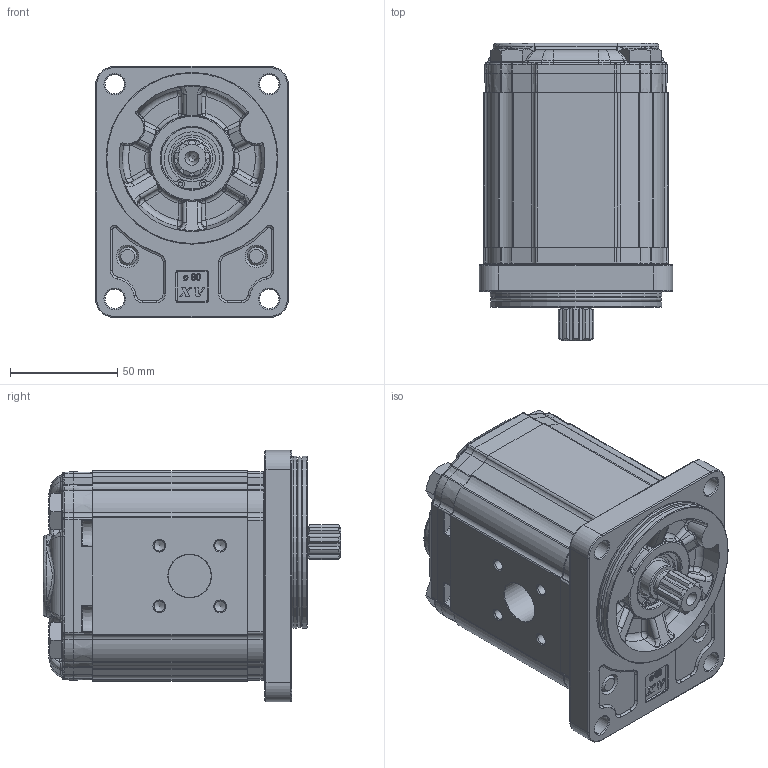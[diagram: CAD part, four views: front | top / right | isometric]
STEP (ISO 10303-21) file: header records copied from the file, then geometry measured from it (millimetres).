
FILE_DESCRIPTION(/* description */ ('Unknown'),/* implementation_level */ '2;1');
FILE_NAME(/* name */ 'X2P5342HSRA',/* time_stamp */ '2021-07-16T13:03:55+02:00',/* author */ ('Unknown'),/* organization */ ('Unknown'),/* preprocessor_version */ 'ST-DEVELOPER v16.7',/* originating_system */ 'Solid Edge',/* authorisation */ 'Unknown');
FILE_SCHEMA (('AUTOMOTIVE_DESIGN {1 0 10303 214 3 1 1}'));
Products named in the file (5): X2P5342HSRA; X2P42; 2H; X2SRH72; XP217-A
Assembly tree (4 placements, depth 2):
  X2P5342HSRA
    X2P42
    2H
    X2SRH72
    XP217-A
Bounding box: 90 x 138.5 x 117 mm (x, y, z)
Volume: 860550.3 mm3; surface area: 120843.5 mm2
Topology: 4 solids, 5 shells, 1949 faces, 4776 edges, 2884 vertices
Faces by surface type: cylinder 608, bspline 537, plane 450, torus 234, cone 96, sphere 24
Full cylindrical faces by diameter (mm): 2 x2, 5 x8, 9 x4, 10 x4, 10.5 x8, 12 x1, 15 x1, 16 x4, 17.42 x1, 17.48 x2, 18.724 x1, 20 x1, 20.595 x1, 21.741 x1, 25.834 x1, 28.56 x1, 28.57 x1, 28.8 x1, 30.5 x1, 40 x1, 77.2 x2, 80 x2
Entity records: 82654 total; most frequent: CARTESIAN_POINT 28180, ORIENTED_EDGE 9076, DIRECTION 7514, EDGE_CURVE 4538, AXIS2_PLACEMENT_3D 2930, VERTEX_POINT 2827, FACE_BOUND 2195, EDGE_LOOP 2185
